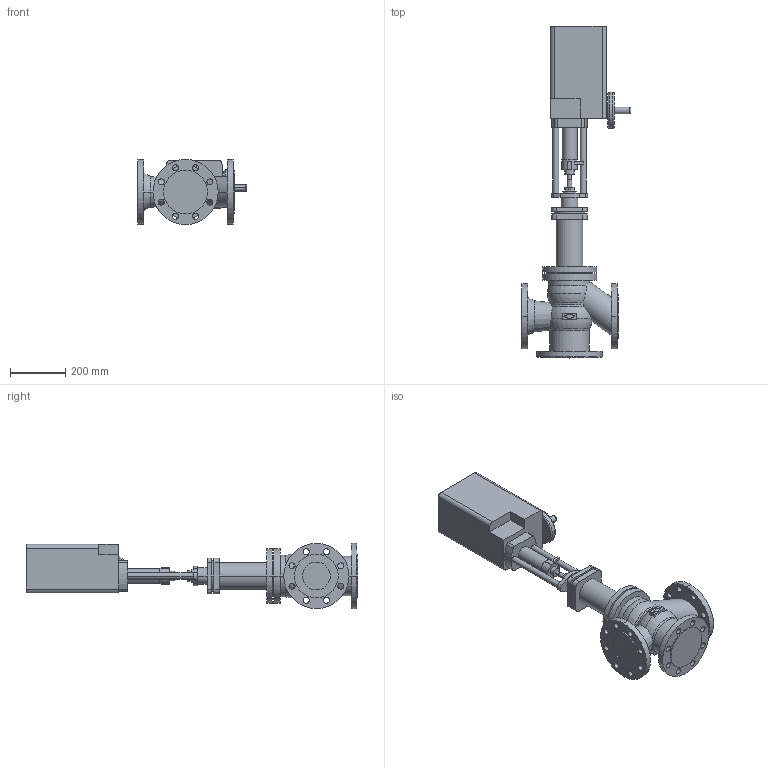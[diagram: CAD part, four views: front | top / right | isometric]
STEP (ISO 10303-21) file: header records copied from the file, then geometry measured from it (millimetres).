
FILE_DESCRIPTION(('OneSpaceDesigner STEP Export'),'2;1');
FILE_NAME('c000002467.stp','2006-09-21T11:57:48',(''),(''),'OneSpace Designer STEP processor for AP214 (Solid Model)','OneSpace Designer 13.20A 18-Aug-2005 (C) CoCreate Software GmbH','');
FILE_SCHEMA(('AUTOMOTIVE_DESIGN { 1 0 10303 214 1 1 1 1 }'));
Length unit declared in the file: millimetre
Products named in the file (2): 1; 2
Bounding box: 396.6 x 1197.2 x 235 mm (x, y, z)
Volume: 25195314.2 mm3; surface area: 1116606.5 mm2
Topology: 2 solids, 2 shells, 260 faces, 657 edges, 432 vertices
Faces by surface type: cylinder 134, plane 102, torus 16, sphere 4, cone 4
Entity records: 7251 total; most frequent: CARTESIAN_POINT 1386, ORIENTED_EDGE 1306, DIRECTION 1081, EDGE_CURVE 653, VERTEX_POINT 432, AXIS2_PLACEMENT_3D 391, EDGE_LOOP 343, VECTOR 299
